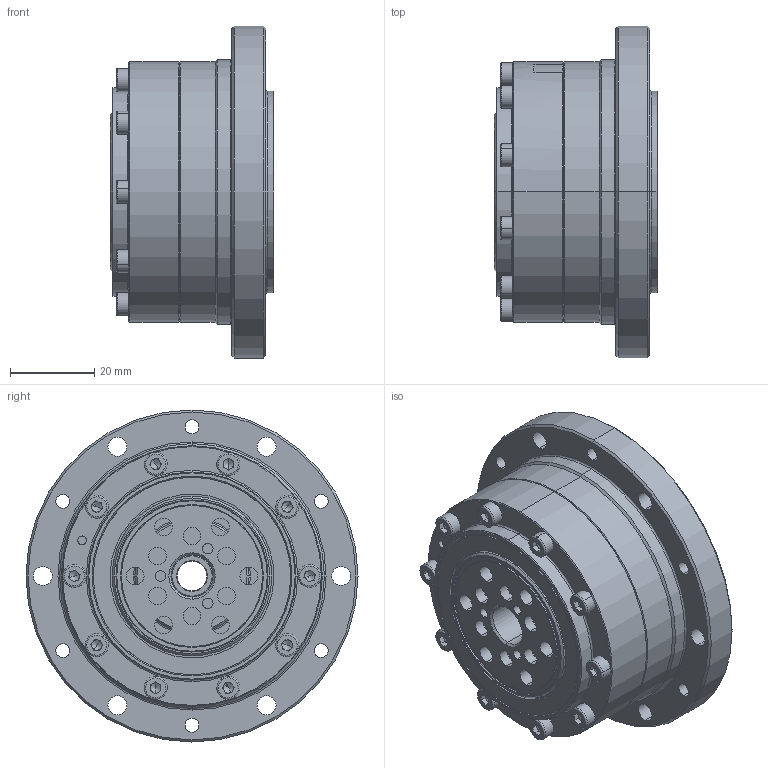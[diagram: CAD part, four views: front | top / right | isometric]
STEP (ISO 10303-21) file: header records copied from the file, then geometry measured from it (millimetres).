
FILE_DESCRIPTION (( 'STEP AP214' ), '1' );
FILE_NAME ('CSF-17-xxx-II.STEP', '2021-07-17T01:17:58', ( 'PC' ), ( 'Microsoft' ), 'SwSTEP 2.0', 'SolidWorks 2016', '' );
FILE_SCHEMA (( 'AUTOMOTIVE_DESIGN' ));
Length unit declared in the file: millimetre
Products named in the file (17): hexagon socket head cap screws gb_GB_FASTENER_SCREWS_HSHCS M2.5X8-C; 蝠脫粣創-蚐猾-CSF-17; 蝠脫粣創-幗赽-朴3; 17-交叉轴承内圈; 17-交叉轴承外圈; CSF-17-xxx-II; 17-疏楷汜ん; 17柔性轴承; 芧謫-SF-17; 17-蝠脫粣創黑芛; hexagon socket head cap screws gb_GB_FASTENER_SCREWS_HSHCS M3X20-C; 17-詩謫; hexagon socket head cap screws gb_GB_FASTENER_SCREWS_HSHCS M5X16-C; 17柔轮定位法兰; 3x11种隊; 17-柔轮; 17-蝠脫粣創
Assembly tree (75 placements, depth 3):
  CSF-17-xxx-II
    17-蝠脫粣創
      17-交叉轴承外圈
      17-交叉轴承内圈
      蝠脫粣創-幗赽-朴3  x44
      蝠脫粣創-蚐猾-CSF-17
      hexagon socket head cap screws gb_GB_FASTENER_SCREWS_HSHCS M2.5X8-C
      17-蝠脫粣創黑芛
    17-柔轮
    3x11种隊  x3
    17柔轮定位法兰
    hexagon socket head cap screws gb_GB_FASTENER_SCREWS_HSHCS M5X16-C  x6
    17-詩謫
    hexagon socket head cap screws gb_GB_FASTENER_SCREWS_HSHCS M3X20-C  x10
    17-疏楷汜ん
      芧謫-SF-17
      17柔性轴承
Bounding box: 39 x 79 x 79 mm (x, y, z)
Volume: 91648.9 mm3; surface area: 65240.4 mm2
Topology: 73 solids, 73 shells, 1300 faces, 2776 edges, 1642 vertices
Faces by surface type: plane 411, cylinder 405, cone 370, torus 110, bspline 4
Entity records: 20744 total; most frequent: CARTESIAN_POINT 4572, DIRECTION 3431, ORIENTED_EDGE 2672, AXIS2_PLACEMENT_3D 1466, EDGE_CURVE 1336, VERTEX_POINT 820, CIRCLE 800, EDGE_LOOP 768
